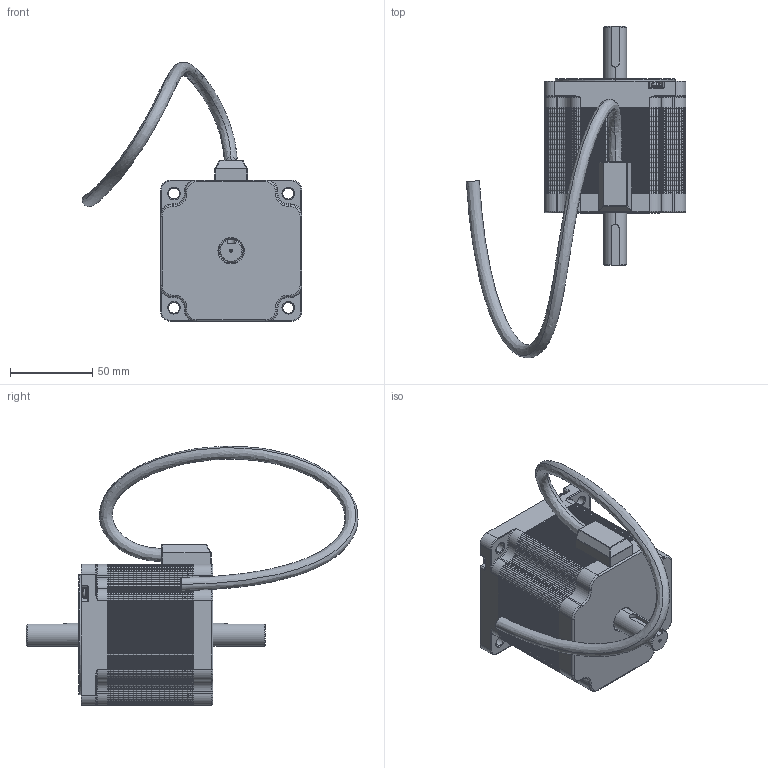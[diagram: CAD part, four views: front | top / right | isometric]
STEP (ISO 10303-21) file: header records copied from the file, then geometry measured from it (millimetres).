
FILE_DESCRIPTION (( 'STEP AP214' ), '1' );
FILE_NAME ('Nema 34 Stepper Motor shaft D14 length 80 key_DS.STEP', '2020-11-16T06:34:03', ( 'Moofasta' ), ( '' ), 'SwSTEP 2.0', 'SolidWorks 2020', '' );
FILE_SCHEMA (( 'AUTOMOTIVE_DESIGN' ));
Length unit declared in the file: millimetre
Products named in the file (1): Nema 34  Stepper Motor shaft D14 length 80 key_DS
Bounding box: 133.66 x 202.27 x 158.17 mm (x, y, z)
Volume: 559540.6 mm3; surface area: 540179.8 mm2
Topology: 48 solids, 48 shells, 4593 faces, 10366 edges, 5820 vertices
Faces by surface type: plane 2258, cone 1251, cylinder 832, bspline 126, torus 103, sphere 23
Entity records: 175837 total; most frequent: CARTESIAN_POINT 28948, DIRECTION 21777, ORIENTED_EDGE 20650, EDGE_CURVE 10325, AXIS2_PLACEMENT_3D 7341, LINE 7095, VECTOR 7095, VERTEX_POINT 5820
